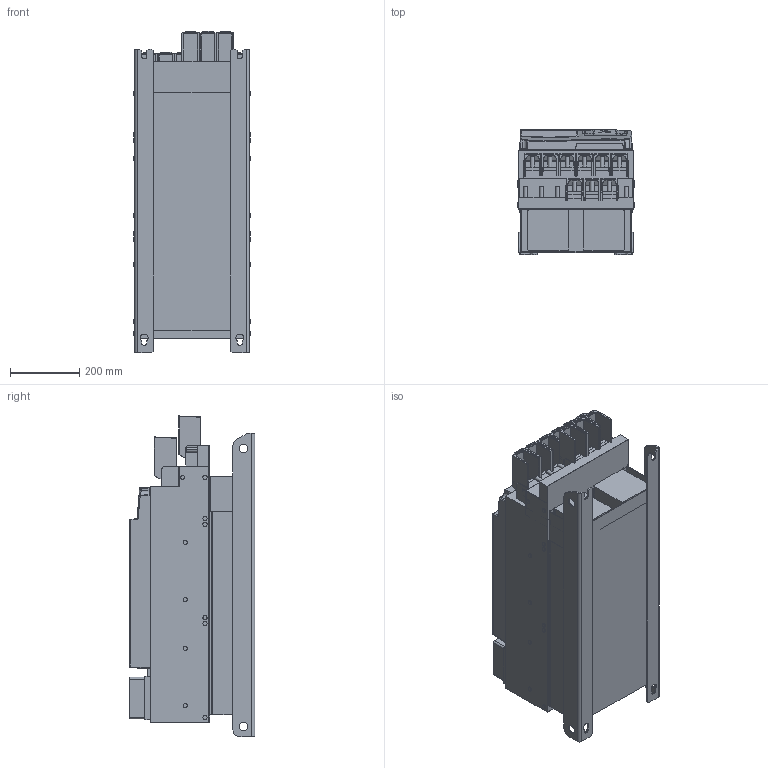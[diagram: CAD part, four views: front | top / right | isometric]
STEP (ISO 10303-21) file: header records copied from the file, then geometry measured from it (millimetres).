
FILE_DESCRIPTION (( 'STEP AP214' ), '1' );
FILE_NAME ('F6-8TR0-P150.STEP', '2021-03-01T07:39:17', ( '' ), ( '' ), 'SwSTEP 2.0', 'SolidWorks 2019', '' );
FILE_SCHEMA (( 'AUTOMOTIVE_DESIGN' ));
Length unit declared in the file: millimetre
Products named in the file (15): 10059765_000; 10040552_000_Kundenmodell; 10059764_000_Blindabdeckung (Kundenmodell); 10059762_000_Kundenmodell mit Geberbuchsen; 10038044_000_Kundemodell; 10063225_000; 10063231_000; 10062314_000_Kundenmodell; 10063180_000; 10063199_000; F6-8TR0-P150; 10051076_000_Kundenmodell; 10061505_000; 10044088_000_Kundenmodell; 10047771_000_Kundenmodell
Assembly tree (14 placements, depth 4):
  F6-8TR0-P150
    10062314_000_Kundenmodell
      10038044_000_Kundemodell
        10063180_000
      10063231_000
    10040552_000_Kundenmodell
      10047771_000_Kundenmodell
        10063225_000
      10063199_000
    10044088_000_Kundenmodell
      10061505_000
    10051076_000_Kundenmodell
      10059764_000_Blindabdeckung (Kundenmodell)
        10059765_000
      10059762_000_Kundenmodell mit Geberbuchsen
Bounding box: 335.5 x 361.9 x 926.36 mm (x, y, z)
Volume: 83686750.6 mm3; surface area: 3172601.4 mm2
Topology: 7 solids, 31 shells, 2882 faces, 7404 edges, 4607 vertices
Faces by surface type: plane 1552, cylinder 800, bspline 233, sphere 154, cone 98, torus 45
Entity records: 93312 total; most frequent: CARTESIAN_POINT 24924, ORIENTED_EDGE 14586, DIRECTION 13468, EDGE_CURVE 7293, LINE 4774, VECTOR 4774, VERTEX_POINT 4604, AXIS2_PLACEMENT_3D 4347
